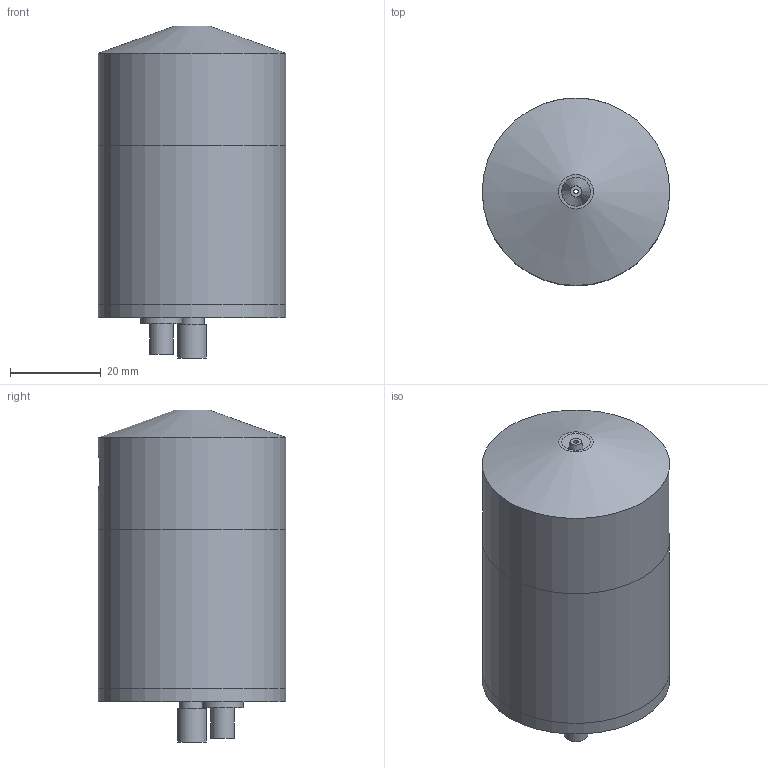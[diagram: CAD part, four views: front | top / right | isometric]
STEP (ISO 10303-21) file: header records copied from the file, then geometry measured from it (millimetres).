
FILE_DESCRIPTION((''),'2;1');
FILE_NAME('Y:\Desktop\AutoDesk\Nicrofer Nozzle\NS60K_Vortex_Inert.stp','2017-08-29T15:07:26',('Owner'),(''),'Autodesk Inventor 2013','Autodesk Inventor 2013','');
FILE_SCHEMA(('AUTOMOTIVE_DESIGN { 1 0 10303 214 1 1 1 1 }'));
Length unit declared in the file: inch
Products named in the file (15): NICROFER NozzleA; SON01347D Nicrofer 60kHz Atomizer Front Driver; AS568A-012; Crystal Stack .120; SON01348 Nicrofer 60kHz Atomizer Rear Driver; SON01351B NICROFER Atomizer Rear Cover; 1-64 screw; electrical connector; SON01352A NICROFER Atomizer Tube; SON01349B Nicrofer 60kHz Atomizer Case; SON01350C Nicrofer 60kHz Nozzle Cone; SON01355 NICROFER WVSA; AS568A-026; SON01356 NICROFER WVSA Bushing; AS568A-028
Assembly tree (17 placements, depth 2):
  NICROFER NozzleA
    SON01347D Nicrofer 60kHz Atomizer Front Driver
    AS568A-012
    Crystal Stack .120
    SON01348 Nicrofer 60kHz Atomizer Rear Driver
    SON01351B NICROFER Atomizer Rear Cover
    1-64 screw  x4
    electrical connector
    SON01352A NICROFER Atomizer Tube
    SON01349B Nicrofer 60kHz Atomizer Case
    SON01350C Nicrofer 60kHz Nozzle Cone
    SON01355 NICROFER WVSA
    AS568A-026
    SON01356 NICROFER WVSA Bushing
    AS568A-028
Bounding box: 41.27 x 41.27 x 73.08 mm (x, y, z)
Volume: 49931 mm3; surface area: 31996.9 mm2
Topology: 17 solids, 17 shells, 221 faces, 433 edges, 283 vertices
Faces by surface type: plane 102, cylinder 93, cone 14, torus 12
Full cylindrical faces by diameter (mm): 0.889 x2, 1.016 x1, 1.27 x2, 1.588 x21, 1.778 x2, 1.829 x2, 1.854 x8, 1.93 x4, 2.997 x4, 3.048 x1, 3.175 x4, 4.623 x1, 4.826 x2, 5.182 x1, 5.334 x1, 5.588 x1, 6.35 x5, 6.528 x1, 6.756 x2, 7.62 x1, 7.925 x1, 8.255 x1, 8.731 x1, 8.992 x1, 9.144 x1, 9.906 x1, 10.16 x1, 12.852 x2, 19.05 x3, 25.4 x1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
Entity records: 4732 total; most frequent: DIRECTION 832, CARTESIAN_POINT 721, ORIENTED_EDGE 462, AXIS2_PLACEMENT_3D 396, EDGE_LOOP 387, EDGE_CURVE 231, VERTEX_POINT 214, FACE_BOUND 211
